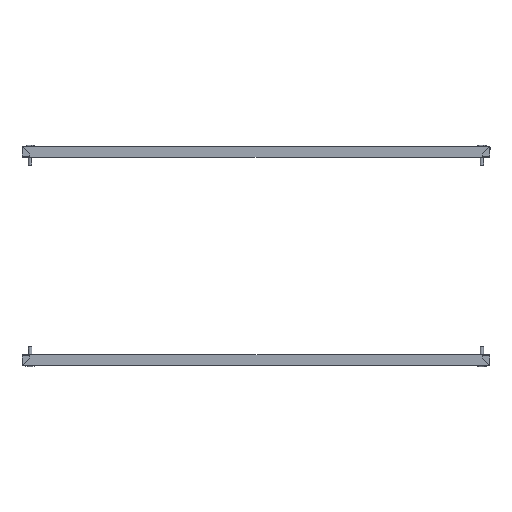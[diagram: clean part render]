
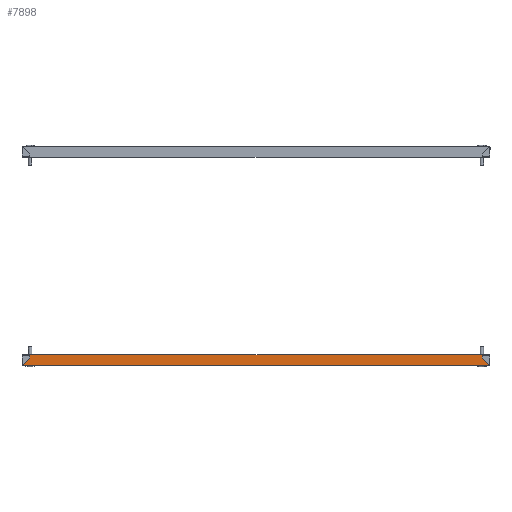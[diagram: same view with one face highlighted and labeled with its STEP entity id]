
A CAD part, front view. The second image highlights one B-rep face of the part: STEP entity #7898.
In plain terms, the highlighted planar face has unit normal (0, -1, 0).
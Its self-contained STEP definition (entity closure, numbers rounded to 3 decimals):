
#220 = DIRECTION ( 'NONE',  ( 0.707, 0., -0.707 ) ) ;
#313 = CARTESIAN_POINT ( 'NONE',  ( -386., -50., 17.5 ) ) ;
#391 = EDGE_CURVE ( 'NONE', #4278, #2514, #3503, .T. ) ;
#418 = FACE_OUTER_BOUND ( 'NONE', #2667, .T. ) ;
#576 = EDGE_CURVE ( 'NONE', #4278, #1589, #3827, .T. ) ;
#600 = CARTESIAN_POINT ( 'NONE',  ( 397.223, -50., -1.5 ) ) ;
#616 = VECTOR ( 'NONE', #8492, 1000. ) ;
#743 = EDGE_CURVE ( 'NONE', #6697, #6852, #1550, .T. ) ;
#1139 = LINE ( 'NONE', #7318, #6194 ) ;
#1203 = CARTESIAN_POINT ( 'NONE',  ( -397.046, -50., 0.6 ) ) ;
#1550 = LINE ( 'NONE', #5429, #616 ) ;
#1589 = VERTEX_POINT ( 'NONE', #6013 ) ;
#1964 = CARTESIAN_POINT ( 'NONE',  ( 386., -50., 17.5 ) ) ;
#2060 = ORIENTED_EDGE ( 'NONE', *, *, #576, .T. ) ;
#2161 = DIRECTION ( 'NONE',  ( 0., 1., 0. ) ) ;
#2227 = CARTESIAN_POINT ( 'NONE',  ( -397.084, -50., 0.251 ) ) ;
#2514 = VERTEX_POINT ( 'NONE', #5271 ) ;
#2590 = VECTOR ( 'NONE', #220, 1000. ) ;
#2634 = DIRECTION ( 'NONE',  ( 0., 0., -1. ) ) ;
#2667 = EDGE_LOOP ( 'NONE', ( #9193, #5702, #7964, #4654, #5203, #2060, #4174, #3900 ) ) ;
#2804 = CARTESIAN_POINT ( 'NONE',  ( 397.181, -50., -0.799 ) ) ;
#2931 = CARTESIAN_POINT ( 'NONE',  ( -397.046, -50., 0.6 ) ) ;
#3063 = CARTESIAN_POINT ( 'NONE',  ( 397.046, -50., 0.6 ) ) ;
#3287 = VECTOR ( 'NONE', #9312, 1000. ) ;
#3503 = LINE ( 'NONE', #1203, #5921 ) ;
#3561 = EDGE_CURVE ( 'NONE', #6852, #7883, #3819, .T. ) ;
#3628 = CARTESIAN_POINT ( 'NONE',  ( 397.121, -50., -0.099 ) ) ;
#3669 = DIRECTION ( 'NONE',  ( -1., 0., 0. ) ) ;
#3737 = DIRECTION ( 'NONE',  ( 0., 0., 1. ) ) ;
#3758 = CARTESIAN_POINT ( 'NONE',  ( -397.204, -50., -1.149 ) ) ;
#3814 = EDGE_CURVE ( 'NONE', #8070, #9022, #7613, .T. ) ;
#3819 = LINE ( 'NONE', #4420, #7904 ) ;
#3827 = B_SPLINE_CURVE_WITH_KNOTS ( 'NONE', 3,
 ( #8342, #2227, #4502, #7575, #3758, #8538 ),
 .UNSPECIFIED., .F., .F.,
 ( 4, 2, 4 ),
 ( 0.005, 0.006, 0.008 ),
 .UNSPECIFIED. ) ;
#3900 = ORIENTED_EDGE ( 'NONE', *, *, #3814, .F. ) ;
#3987 = LINE ( 'NONE', #8093, #3287 ) ;
#4174 = ORIENTED_EDGE ( 'NONE', *, *, #9564, .T. ) ;
#4278 = VERTEX_POINT ( 'NONE', #2931 ) ;
#4330 = CARTESIAN_POINT ( 'NONE',  ( 397.084, -50., 0.251 ) ) ;
#4420 = CARTESIAN_POINT ( 'NONE',  ( 0., -50., 17.5 ) ) ;
#4502 = CARTESIAN_POINT ( 'NONE',  ( -397.121, -50., -0.099 ) ) ;
#4654 = ORIENTED_EDGE ( 'NONE', *, *, #9829, .T. ) ;
#4988 = CARTESIAN_POINT ( 'NONE',  ( 0., -50., 0. ) ) ;
#5203 = ORIENTED_EDGE ( 'NONE', *, *, #391, .F. ) ;
#5271 = CARTESIAN_POINT ( 'NONE',  ( -386., -50., 11.646 ) ) ;
#5308 = CARTESIAN_POINT ( 'NONE',  ( 397.223, -50., -1.5 ) ) ;
#5429 = CARTESIAN_POINT ( 'NONE',  ( 386., -50., 11.646 ) ) ;
#5702 = ORIENTED_EDGE ( 'NONE', *, *, #743, .T. ) ;
#5764 = PLANE ( 'NONE',  #9855 ) ;
#5921 = VECTOR ( 'NONE', #8800, 1000. ) ;
#6013 = CARTESIAN_POINT ( 'NONE',  ( -397.223, -50., -1.5 ) ) ;
#6194 = VECTOR ( 'NONE', #2634, 1000. ) ;
#6382 = EDGE_CURVE ( 'NONE', #6697, #8070, #9286, .T. ) ;
#6697 = VERTEX_POINT ( 'NONE', #7916 ) ;
#6749 = CARTESIAN_POINT ( 'NONE',  ( 397.204, -50., -1.149 ) ) ;
#6852 = VERTEX_POINT ( 'NONE', #1964 ) ;
#7318 = CARTESIAN_POINT ( 'NONE',  ( -386., -50., 11.646 ) ) ;
#7575 = CARTESIAN_POINT ( 'NONE',  ( -397.181, -50., -0.799 ) ) ;
#7613 = B_SPLINE_CURVE_WITH_KNOTS ( 'NONE', 3,
 ( #9907, #4330, #3628, #2804, #6749, #600 ),
 .UNSPECIFIED., .F., .F.,
 ( 4, 2, 4 ),
 ( 0.005, 0.006, 0.008 ),
 .UNSPECIFIED. ) ;
#7883 = VERTEX_POINT ( 'NONE', #313 ) ;
#7898 = ADVANCED_FACE ( 'NONE', ( #418 ), #5764, .F. ) ;
#7904 = VECTOR ( 'NONE', #3669, 1000. ) ;
#7916 = CARTESIAN_POINT ( 'NONE',  ( 386., -50., 11.646 ) ) ;
#7964 = ORIENTED_EDGE ( 'NONE', *, *, #3561, .T. ) ;
#8070 = VERTEX_POINT ( 'NONE', #3063 ) ;
#8093 = CARTESIAN_POINT ( 'NONE',  ( 0., -50., -1.5 ) ) ;
#8342 = CARTESIAN_POINT ( 'NONE',  ( -397.046, -50., 0.6 ) ) ;
#8492 = DIRECTION ( 'NONE',  ( 0., 0., 1. ) ) ;
#8538 = CARTESIAN_POINT ( 'NONE',  ( -397.223, -50., -1.5 ) ) ;
#8687 = CARTESIAN_POINT ( 'NONE',  ( -164.59, -50., 562.237 ) ) ;
#8800 = DIRECTION ( 'NONE',  ( 0.707, 0., 0.707 ) ) ;
#9022 = VERTEX_POINT ( 'NONE', #5308 ) ;
#9193 = ORIENTED_EDGE ( 'NONE', *, *, #6382, .F. ) ;
#9286 = LINE ( 'NONE', #8687, #2590 ) ;
#9312 = DIRECTION ( 'NONE',  ( 1., 0., 0. ) ) ;
#9564 = EDGE_CURVE ( 'NONE', #1589, #9022, #3987, .T. ) ;
#9829 = EDGE_CURVE ( 'NONE', #7883, #2514, #1139, .T. ) ;
#9855 = AXIS2_PLACEMENT_3D ( 'NONE', #4988, #2161, #3737 ) ;
#9907 = CARTESIAN_POINT ( 'NONE',  ( 397.046, -50., 0.6 ) ) ;
